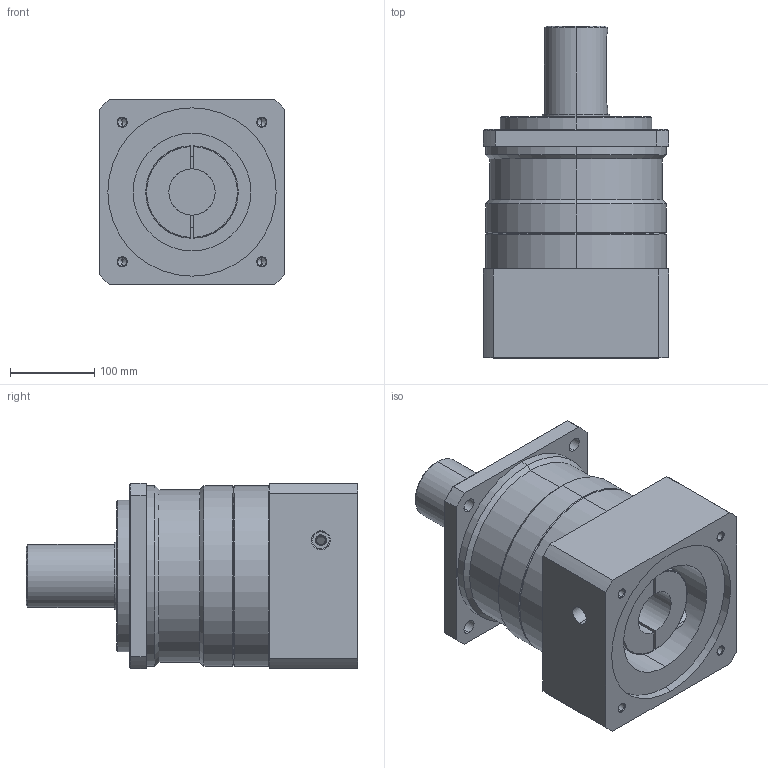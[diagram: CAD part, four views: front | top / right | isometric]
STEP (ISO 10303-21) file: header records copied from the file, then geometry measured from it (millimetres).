
FILE_DESCRIPTION (( 'STEP AP203' ), '1' );
FILE_NAME ('MF220X-L1£r200PCD£r235M12.STEP', '2014-04-16T08:10:20', ( 'KELLY' ), ( '' ), 'SwSTEP 2.0', 'SolidWorks 2012', '' );
FILE_SCHEMA (( 'CONFIG_CONTROL_DESIGN' ));
Length unit declared in the file: millimetre
Products named in the file (1): MF220X-L1｣r200PCD｣r235M12
Bounding box: 220 x 394.5 x 220 mm (x, y, z)
Volume: 10247076.1 mm3; surface area: 570923.5 mm2
Topology: 2 solids, 2 shells, 153 faces, 364 edges, 221 vertices
Faces by surface type: cylinder 68, cone 42, plane 39, torus 4
Entity records: 5155 total; most frequent: CARTESIAN_POINT 1479, DIRECTION 794, ORIENTED_EDGE 708, EDGE_CURVE 354, AXIS2_PLACEMENT_3D 316, VERTEX_POINT 221, EDGE_LOOP 189, CIRCLE 162
